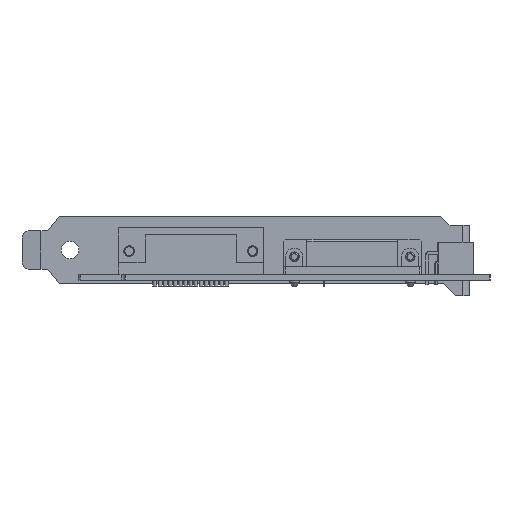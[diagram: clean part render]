
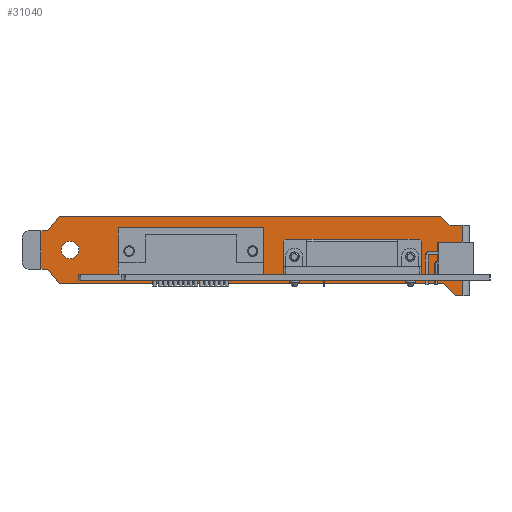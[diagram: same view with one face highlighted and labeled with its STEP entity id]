
A CAD part, left-side view. The second image highlights one B-rep face of the part: STEP entity #31040.
In plain terms, the highlighted planar face has unit normal (-1, 0, 0).
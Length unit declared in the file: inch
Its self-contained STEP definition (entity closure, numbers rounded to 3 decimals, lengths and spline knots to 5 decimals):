
#3689=DIRECTION('',(0.,0.,1.));
#3690=VECTOR('',#3689,0.494);
#3691=CARTESIAN_POINT('',(0.041,-1.791,0.0625));
#3692=LINE('',#3691,#3690);
#3701=DIRECTION('',(0.,0.,1.));
#3702=VECTOR('',#3701,0.412);
#3703=CARTESIAN_POINT('',(0.041,0.573,0.1155));
#3704=LINE('',#3703,#3702);
#3705=DIRECTION('',(0.,-1.,0.));
#3706=VECTOR('',#3705,0.074);
#3707=CARTESIAN_POINT('',(0.041,0.573,0.5275));
#3708=LINE('',#3707,#3706);
#3709=DIRECTION('',(0.,0.616,-0.788));
#3710=VECTOR('',#3709,0.1967);
#3711=CARTESIAN_POINT('',(0.041,0.3779,0.6825));
#3712=LINE('',#3711,#3710);
#3713=DIRECTION('',(0.,0.707,0.707));
#3714=VECTOR('',#3713,0.14142);
#3715=CARTESIAN_POINT('',(0.041,-3.774,0.5825));
#3716=LINE('',#3715,#3714);
#3717=DIRECTION('',(0.,1.,0.));
#3718=VECTOR('',#3717,0.137);
#3719=CARTESIAN_POINT('',(0.041,-3.911,0.5825));
#3720=LINE('',#3719,#3718);
#3721=DIRECTION('',(0.,0.,-1.));
#3722=VECTOR('',#3721,0.75);
#3723=CARTESIAN_POINT('',(0.041,-3.911,0.5825));
#3724=LINE('',#3723,#3722);
#3725=DIRECTION('',(0.,-0.707,-0.707));
#3726=VECTOR('',#3725,0.18102);
#3727=CARTESIAN_POINT('',(0.041,-3.705,-0.0395));
#3728=LINE('',#3727,#3726);
#3729=DIRECTION('',(0.,-1.,0.));
#3730=VECTOR('',#3729,4.0829);
#3731=CARTESIAN_POINT('',(0.041,0.3779,-0.0395));
#3732=LINE('',#3731,#3730);
#3733=DIRECTION('',(0.,-0.616,-0.788));
#3734=VECTOR('',#3733,0.1967);
#3735=CARTESIAN_POINT('',(0.041,0.499,0.1155));
#3736=LINE('',#3735,#3734);
#3737=DIRECTION('',(0.,-1.,0.));
#3738=VECTOR('',#3737,0.074);
#3739=CARTESIAN_POINT('',(0.041,0.573,0.1155));
#3740=LINE('',#3739,#3738);
#3741=CARTESIAN_POINT('',(0.041,0.262,0.3215));
#3742=DIRECTION('',(1.,0.,0.));
#3743=DIRECTION('',(0.,1.,0.));
#3744=AXIS2_PLACEMENT_3D('',#3741,#3742,#3743);
#3746=CARTESIAN_POINT('',(0.041,0.262,0.3215));
#3747=DIRECTION('',(1.,0.,0.));
#3748=DIRECTION('',(0.,-1.,0.));
#3749=AXIS2_PLACEMENT_3D('',#3746,#3747,#3748);
#3797=DIRECTION('',(0.,1.,0.));
#3798=VECTOR('',#3797,0.078);
#3799=CARTESIAN_POINT('',(0.041,-3.911,-0.1675));
#3800=LINE('',#3799,#3798);
#4147=DIRECTION('',(0.,1.,0.));
#4148=VECTOR('',#4147,4.0519);
#4149=CARTESIAN_POINT('',(0.041,-3.674,0.6825));
#4150=LINE('',#4149,#4148);
#5247=DIRECTION('',(0.,0.,1.));
#5248=VECTOR('',#5247,0.35236);
#5249=CARTESIAN_POINT('',(0.041,-2.00207,0.0625));
#5250=LINE('',#5249,#5248);
#5263=DIRECTION('',(0.,0.707,-0.707));
#5264=VECTOR('',#5263,0.02784);
#5265=CARTESIAN_POINT('',(0.041,-2.02176,0.43455));
#5266=LINE('',#5265,#5264);
#5267=DIRECTION('',(0.,-1.,0.));
#5268=VECTOR('',#5267,1.42756);
#5269=CARTESIAN_POINT('',(0.041,-2.02176,0.43455));
#5270=LINE('',#5269,#5268);
#5291=DIRECTION('',(0.,-0.707,-0.707));
#5292=VECTOR('',#5291,0.02784);
#5293=CARTESIAN_POINT('',(0.041,-3.44931,0.43455));
#5294=LINE('',#5293,#5292);
#5295=DIRECTION('',(0.,0.,-1.));
#5296=VECTOR('',#5295,0.35236);
#5297=CARTESIAN_POINT('',(0.041,-3.469,0.41486));
#5298=LINE('',#5297,#5296);
#5315=DIRECTION('',(0.,1.,0.));
#5316=VECTOR('',#5315,1.46693);
#5317=CARTESIAN_POINT('',(0.041,-3.469,0.0625));
#5318=LINE('',#5317,#5316);
#5343=DIRECTION('',(0.,1.,0.));
#5344=VECTOR('',#5343,1.541);
#5345=CARTESIAN_POINT('',(0.041,-1.791,0.0625));
#5346=LINE('',#5345,#5344);
#5347=DIRECTION('',(0.,0.,1.));
#5348=VECTOR('',#5347,0.494);
#5349=CARTESIAN_POINT('',(0.041,-0.25,0.0625));
#5350=LINE('',#5349,#5348);
#5351=DIRECTION('',(0.,1.,0.));
#5352=VECTOR('',#5351,1.541);
#5353=CARTESIAN_POINT('',(0.041,-1.791,0.5565));
#5354=LINE('',#5353,#5352);
#27999=CARTESIAN_POINT('',(0.041,-3.911,-0.1675));
#28001=VERTEX_POINT('',#27999);
#28002=CARTESIAN_POINT('',(0.041,-3.911,0.5825));
#28004=VERTEX_POINT('',#28002);
#28006=CARTESIAN_POINT('',(0.041,-3.774,0.5825));
#28007=VERTEX_POINT('',#28006);
#28008=CARTESIAN_POINT('',(0.041,-3.674,0.6825));
#28009=VERTEX_POINT('',#28008);
#28010=CARTESIAN_POINT('',(0.041,0.499,0.1155));
#28011=CARTESIAN_POINT('',(0.041,0.3779,-0.0395));
#28012=VERTEX_POINT('',#28010);
#28013=VERTEX_POINT('',#28011);
#28014=CARTESIAN_POINT('',(0.041,-3.705,-0.0395));
#28015=VERTEX_POINT('',#28014);
#28016=CARTESIAN_POINT('',(0.041,-3.833,-0.1675));
#28017=VERTEX_POINT('',#28016);
#28018=CARTESIAN_POINT('',(0.041,0.3779,0.6825));
#28019=CARTESIAN_POINT('',(0.041,0.499,0.5275));
#28020=VERTEX_POINT('',#28018);
#28021=VERTEX_POINT('',#28019);
#28130=CARTESIAN_POINT('',(0.041,0.3555,0.3215));
#28131=CARTESIAN_POINT('',(0.041,0.1685,0.3215));
#28132=VERTEX_POINT('',#28130);
#28133=VERTEX_POINT('',#28131);
#28134=CARTESIAN_POINT('',(0.041,0.573,0.1155));
#28135=VERTEX_POINT('',#28134);
#28136=CARTESIAN_POINT('',(0.041,0.573,0.5275));
#28137=VERTEX_POINT('',#28136);
#28206=CARTESIAN_POINT('',(0.041,-3.469,0.41486));
#28207=CARTESIAN_POINT('',(0.041,-3.469,0.0625));
#28208=VERTEX_POINT('',#28206);
#28209=VERTEX_POINT('',#28207);
#28210=CARTESIAN_POINT('',(0.041,-2.00207,0.0625));
#28211=VERTEX_POINT('',#28210);
#28212=CARTESIAN_POINT('',(0.041,-2.00207,0.41486));
#28213=VERTEX_POINT('',#28212);
#28214=CARTESIAN_POINT('',(0.041,-2.02176,0.43455));
#28215=CARTESIAN_POINT('',(0.041,-3.44931,0.43455));
#28216=VERTEX_POINT('',#28214);
#28217=VERTEX_POINT('',#28215);
#28218=CARTESIAN_POINT('',(0.041,-1.791,0.0625));
#28219=CARTESIAN_POINT('',(0.041,-0.25,0.0625));
#28220=VERTEX_POINT('',#28218);
#28221=VERTEX_POINT('',#28219);
#28222=CARTESIAN_POINT('',(0.041,-1.791,0.5565));
#28223=VERTEX_POINT('',#28222);
#28256=CARTESIAN_POINT('',(0.041,-0.25,0.5565));
#28257=VERTEX_POINT('',#28256);
#30980=CARTESIAN_POINT('',(0.041,-3.911,0.6825));
#30981=DIRECTION('',(1.,0.,0.));
#30982=DIRECTION('',(0.,1.,0.));
#30983=AXIS2_PLACEMENT_3D('',#30980,#30981,#30982);
#30984=PLANE('',#30983);
#30986=ORIENTED_EDGE('',*,*,#30985,.T.);
#30988=ORIENTED_EDGE('',*,*,#30987,.T.);
#30990=ORIENTED_EDGE('',*,*,#30989,.F.);
#30992=ORIENTED_EDGE('',*,*,#30991,.F.);
#30994=ORIENTED_EDGE('',*,*,#30993,.F.);
#30996=ORIENTED_EDGE('',*,*,#30995,.F.);
#30998=ORIENTED_EDGE('',*,*,#30997,.T.);
#31000=ORIENTED_EDGE('',*,*,#30999,.T.);
#31002=ORIENTED_EDGE('',*,*,#31001,.F.);
#31004=ORIENTED_EDGE('',*,*,#31003,.F.);
#31006=ORIENTED_EDGE('',*,*,#31005,.F.);
#31008=ORIENTED_EDGE('',*,*,#31007,.F.);
#31009=EDGE_LOOP('',(#30986,#30988,#30990,#30992,#30994,#30996,#30998,#31000,
#31002,#31004,#31006,#31008));
#31010=FACE_OUTER_BOUND('',#31009,.F.);
#31012=ORIENTED_EDGE('',*,*,#31011,.F.);
#31014=ORIENTED_EDGE('',*,*,#31013,.F.);
#31015=EDGE_LOOP('',(#31012,#31014));
#31016=FACE_BOUND('',#31015,.F.);
#31018=ORIENTED_EDGE('',*,*,#31017,.F.);
#31020=ORIENTED_EDGE('',*,*,#31019,.F.);
#31022=ORIENTED_EDGE('',*,*,#31021,.F.);
#31024=ORIENTED_EDGE('',*,*,#31023,.T.);
#31026=ORIENTED_EDGE('',*,*,#31025,.F.);
#31028=ORIENTED_EDGE('',*,*,#31027,.F.);
#31029=EDGE_LOOP('',(#31018,#31020,#31022,#31024,#31026,#31028));
#31030=FACE_BOUND('',#31029,.F.);
#31032=ORIENTED_EDGE('',*,*,#31031,.F.);
#31033=ORIENTED_EDGE('',*,*,#30964,.T.);
#31035=ORIENTED_EDGE('',*,*,#31034,.T.);
#31037=ORIENTED_EDGE('',*,*,#31036,.F.);
#31038=EDGE_LOOP('',(#31032,#31033,#31035,#31037));
#31039=FACE_BOUND('',#31038,.F.);
#31040=ADVANCED_FACE('',(#31010,#31016,#31030,#31039),#30984,.F.);
#3745=CIRCLE('',#3744,0.0935);
#3750=CIRCLE('',#3749,0.0935);
#30964=EDGE_CURVE('',#28220,#28223,#3692,.T.);
#30985=EDGE_CURVE('',#28135,#28137,#3704,.T.);
#30987=EDGE_CURVE('',#28137,#28021,#3708,.T.);
#30989=EDGE_CURVE('',#28020,#28021,#3712,.T.);
#30991=EDGE_CURVE('',#28009,#28020,#4150,.T.);
#30993=EDGE_CURVE('',#28007,#28009,#3716,.T.);
#30995=EDGE_CURVE('',#28004,#28007,#3720,.T.);
#30997=EDGE_CURVE('',#28004,#28001,#3724,.T.);
#30999=EDGE_CURVE('',#28001,#28017,#3800,.T.);
#31001=EDGE_CURVE('',#28015,#28017,#3728,.T.);
#31003=EDGE_CURVE('',#28013,#28015,#3732,.T.);
#31005=EDGE_CURVE('',#28012,#28013,#3736,.T.);
#31007=EDGE_CURVE('',#28135,#28012,#3740,.T.);
#31011=EDGE_CURVE('',#28132,#28133,#3745,.T.);
#31013=EDGE_CURVE('',#28133,#28132,#3750,.T.);
#31017=EDGE_CURVE('',#28208,#28209,#5298,.T.);
#31019=EDGE_CURVE('',#28217,#28208,#5294,.T.);
#31021=EDGE_CURVE('',#28216,#28217,#5270,.T.);
#31023=EDGE_CURVE('',#28216,#28213,#5266,.T.);
#31025=EDGE_CURVE('',#28211,#28213,#5250,.T.);
#31027=EDGE_CURVE('',#28209,#28211,#5318,.T.);
#31031=EDGE_CURVE('',#28220,#28221,#5346,.T.);
#31034=EDGE_CURVE('',#28223,#28257,#5354,.T.);
#31036=EDGE_CURVE('',#28221,#28257,#5350,.T.);
